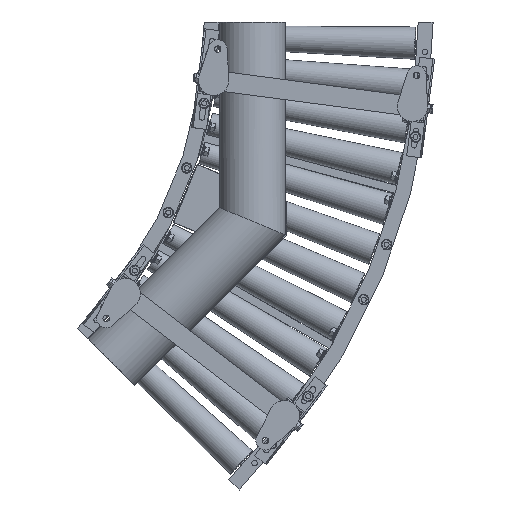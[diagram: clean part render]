
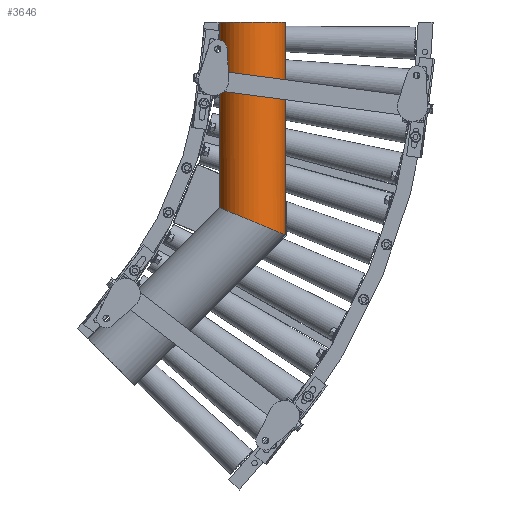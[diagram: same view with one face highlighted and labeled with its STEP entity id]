
A CAD part, front view. The second image highlights one B-rep face of the part: STEP entity #3646.
In plain terms, the highlighted cylindrical face has radius 67.024 mm (diameter 134.048 mm), a partial arc.
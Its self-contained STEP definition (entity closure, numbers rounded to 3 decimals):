
#3646=ADVANCED_FACE('',(#27554),#27553,.T.);
#27553=CYLINDRICAL_SURFACE('',#39915,67.024);
#27554=FACE_OUTER_BOUND('',#39916,.T.);
#39912=CARTESIAN_POINT('',(967.,-156.676,0.));
#39913=DIRECTION('',(0.,0.,1.));
#39914=DIRECTION('',(1.,0.,0.));
#39915=AXIS2_PLACEMENT_3D('',#39912,#39913,#39914);
#39916=EDGE_LOOP('',(#51209,#51210,#51211,#51212));
#51209=ORIENTED_EDGE('',*,*,#56858,.F.);
#51210=ORIENTED_EDGE('',*,*,#56865,.F.);
#51211=ORIENTED_EDGE('',*,*,#56869,.T.);
#51212=ORIENTED_EDGE('',*,*,#56859,.F.);
#56858=EDGE_CURVE('',#94304,#94277,#94311,.T.);
#56859=EDGE_CURVE('',#94277,#94317,#94318,.T.);
#56865=EDGE_CURVE('',#94357,#94304,#94358,.T.);
#56869=EDGE_CURVE('',#94357,#94317,#94383,.T.);
#94277=VERTEX_POINT('',#118400);
#94304=VERTEX_POINT('',#118415);
#94311=LINE('',#118419,#118420);
#94317=VERTEX_POINT('',#118422);
#94318=(BOUNDED_CURVE() B_SPLINE_CURVE(2,(#118423,#118424,#118425,#118426,#118427),.UNSPECIFIED.,.F.,.F.) B_SPLINE_CURVE_WITH_KNOTS((3,2,3),(0.147,1.571,2.994),.UNSPECIFIED.) CURVE() GEOMETRIC_REPRESENTATION_ITEM() RATIONAL_B_SPLINE_CURVE((1.,0.757,1.,0.757,1.)) REPRESENTATION_ITEM('') );
#94357=VERTEX_POINT('',#118447);
#94358=CIRCLE('',#118451,67.024);
#94383=LINE('',#118462,#118463);
#118400=CARTESIAN_POINT('',(1033.3,-166.5,-428.007));
#118415=CARTESIAN_POINT('',(1033.3,-166.5,0.));
#118419=CARTESIAN_POINT('',(1033.3,-166.5,0.));
#118420=VECTOR('',#118421,428.007);
#118421=DIRECTION('',(0.,0.,-1.));
#118422=CARTESIAN_POINT('',(900.7,-166.5,-373.082));
#118423=CARTESIAN_POINT('',(1033.3,-166.5,-428.007));
#118424=CARTESIAN_POINT('',(1024.825,-223.7,-424.496));
#118425=CARTESIAN_POINT('',(967.,-223.7,-400.545));
#118426=CARTESIAN_POINT('',(909.175,-223.7,-376.593));
#118427=CARTESIAN_POINT('',(900.7,-166.5,-373.082));
#118447=CARTESIAN_POINT('',(900.7,-166.5,0.));
#118448=CARTESIAN_POINT('',(967.,-156.676,0.));
#118449=DIRECTION('',(0.,0.,1.));
#118450=DIRECTION('',(-1.,0.,0.));
#118451=AXIS2_PLACEMENT_3D('',#118448,#118449,#118450);
#118462=CARTESIAN_POINT('',(900.7,-166.5,0.));
#118463=VECTOR('',#118464,373.082);
#118464=DIRECTION('',(0.,0.,-1.));
